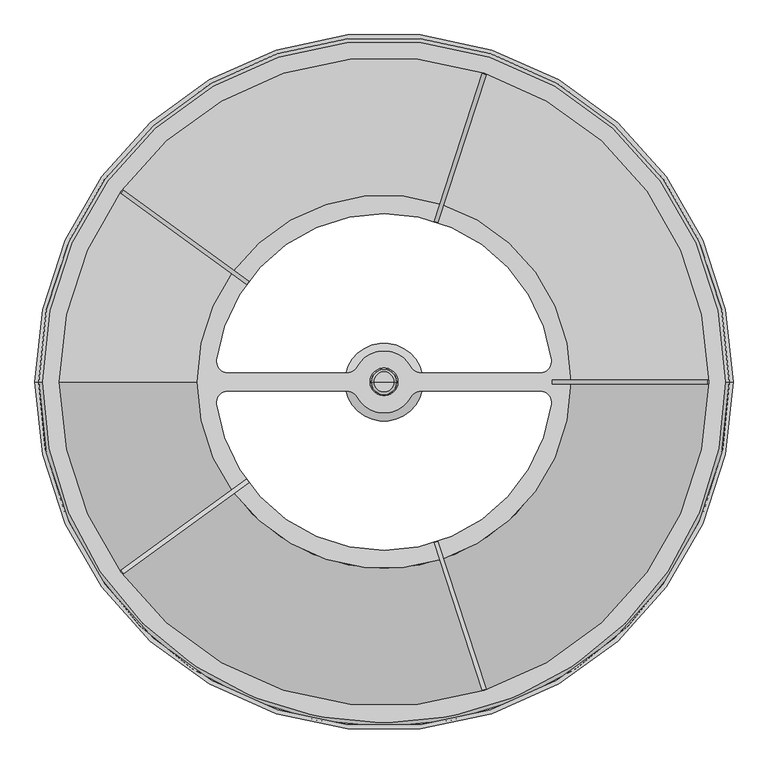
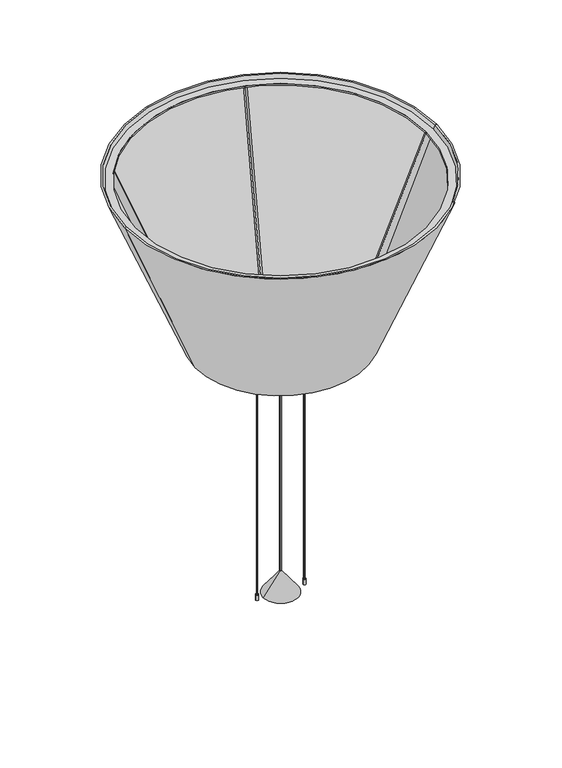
"""IFC4 building model written with IfcOpenShell, lengths in millimetres: light fixture geometry, Haworth_BuzziShade_Light : HCBZ-SHP2 - Large."""

from ifc_helpers import new_model, si_unit, point, frame, frame_2d, origin, origin_with_axes, origin_2d, place, context, project, spatial, polyline, circle_curve, ellipse_curve, trimmed, segment, composite_curve, outline, extrude, source, transform, mapped, element, save
from ifc_brep_helpers import plane_surface, cylinder_surface, revolved_surface, advanced_brep


def light_fixture_a9611ea3(model_context):
    return source(origin(), model_context, "Body", "SolidModel", [
        advanced_brep(
        [(-11.0616704, 0.0, 969.3533765), (11.0616704, 0.0, 969.3533765), (7.7346314, 0.0, 967.3999626), (-7.7346314, 0.0, 967.3999626), (-21.5426766, 0.0, 988.1355465), (21.5426766, 0.0, 988.1355465), (-22.3301074, 0.0, 991.7010236), (22.3301074, 0.0, 991.7010236), (-20.234002, 0.0, 1019.872733), (20.234002, 0.0, 1019.872733), (-16.4345046, 0.0, 1023.4000328), (16.4345046, 0.0, 1023.4000328), (0.0, 0.0, 1023.4000328), (0.0, 0.0, 967.3999626)],
        [
            (0, 1, circle_curve(frame((0.0, 0.0, 969.3533765), z_axis=(0.0, 0.0, -1.0), x_axis=(1.0, 0.0, 0.0)), 11.0616704)),
            (1, 2, circle_curve(frame((7.7346314, 0.0, 971.2099626), z_axis=(0.0, 1.0, 0.0), x_axis=(1.0, 0.0, 0.0)), 3.81)),
            (2, 3, circle_curve(frame((0.0, 0.0, 967.3999626), z_axis=(0.0, 0.0, 1.0), x_axis=(1.0, 0.0, 0.0)), 7.7346314)),
            (3, 0, circle_curve(frame((-7.7346314, 0.0, 971.2099626), z_axis=(0.0, 1.0, 0.0), x_axis=(-1.0, 0.0, 0.0)), 3.81)),
            (1, 0, circle_curve(frame((0.0, 0.0, 969.3533765), z_axis=(0.0, 0.0, -1.0), x_axis=(1.0, 0.0, 0.0)), 11.0616704)),
            (3, 2, circle_curve(frame((0.0, 0.0, 967.3999626), z_axis=(0.0, 0.0, 1.0), x_axis=(1.0, 0.0, 0.0)), 7.7346314)),
            (4, 5, circle_curve(frame((0.0, 0.0, 988.1355465), z_axis=(0.0, 0.0, -1.0), x_axis=(1.0, 0.0, 0.0)), 21.5426766)),
            (5, 1),
            (0, 4),
            (5, 4, circle_curve(frame((0.0, 0.0, 988.1355465), z_axis=(0.0, 0.0, -1.0), x_axis=(1.0, 0.0, 0.0)), 21.5426766)),
            (6, 7, circle_curve(frame((0.0, 0.0, 991.7010236), z_axis=(0.0, 0.0, -1.0), x_axis=(1.0, 0.0, 0.0)), 22.3301074)),
            (7, 5, circle_curve(frame((15.9976117, 0.0, 991.2298567), z_axis=(0.0, 1.0, 0.0), x_axis=(1.0, 0.0, 0.0)), 6.35)),
            (4, 6, circle_curve(frame((-15.9976117, 0.0, 991.2298567), z_axis=(0.0, 1.0, 0.0), x_axis=(-1.0, 0.0, 0.0)), 6.35)),
            (7, 6, circle_curve(frame((0.0, 0.0, 991.7010236), z_axis=(0.0, 0.0, -1.0), x_axis=(1.0, 0.0, 0.0)), 22.3301074)),
            (8, 9, circle_curve(frame((0.0, 0.0, 1019.872733), z_axis=(0.0, 0.0, -1.0), x_axis=(1.0, 0.0, 0.0)), 20.234002)),
            (9, 7),
            (6, 8),
            (9, 8, circle_curve(frame((0.0, 0.0, 1019.872733), z_axis=(0.0, 0.0, -1.0), x_axis=(1.0, 0.0, 0.0)), 20.234002)),
            (10, 11, circle_curve(frame((0.0, 0.0, 1023.4000328), z_axis=(0.0, 0.0, -1.0), x_axis=(1.0, 0.0, 0.0)), 16.4345046)),
            (11, 9, circle_curve(frame((16.4345046, 0.0, 1019.5900328), z_axis=(0.0, 1.0, 0.0), x_axis=(1.0, 0.0, 0.0)), 3.81)),
            (8, 10, circle_curve(frame((-16.4345046, 0.0, 1019.5900328), z_axis=(0.0, 1.0, 0.0), x_axis=(-1.0, 0.0, 0.0)), 3.81)),
            (11, 10, circle_curve(frame((0.0, 0.0, 1023.4000328), z_axis=(0.0, 0.0, -1.0), x_axis=(1.0, 0.0, 0.0)), 16.4345046)),
            (12, 11),
            (10, 12),
            (2, 13),
            (13, 3),
        ],
        [
            revolved_surface(trimmed(ellipse_curve(frame((7.7346314, 0.0, 971.2099626), z_axis=(0.0, -1.0, 0.0), x_axis=(1.0, 0.0, 0.0)), 3.81, 3.81), [point((7.7346314, 0.0, 967.3999626))], [point((11.0616704, 0.0, 969.3533765))], True, "CARTESIAN"), (0.0, 0.0, 1046.7472855), (0.0, 0.0, 1.0)),
            revolved_surface(polyline([(11.0616704, 0.0, 969.3533765), (21.5426766, 0.0, 988.1355465)]), (0.0, 0.0, 1046.7472855), (0.0, 0.0, 1.0)),
            revolved_surface(trimmed(ellipse_curve(frame((15.9976117, 0.0, 991.2298567), z_axis=(0.0, -1.0, 0.0), x_axis=(1.0, 0.0, 0.0)), 6.35, 6.35), [point((21.5426766, 0.0, 988.1355465))], [point((22.3301074, 0.0, 991.7010236))], True, "CARTESIAN"), (0.0, 0.0, 1046.7472855), (0.0, 0.0, 1.0)),
            revolved_surface(polyline([(22.3301074, 0.0, 991.7010236), (20.234002, 0.0, 1019.872733)]), (0.0, 0.0, 1046.7472855), (0.0, 0.0, 1.0)),
            revolved_surface(trimmed(ellipse_curve(frame((16.4345046, 0.0, 1019.5900328), z_axis=(0.0, -1.0, 0.0), x_axis=(1.0, 0.0, 0.0)), 3.81, 3.81), [point((20.234002, 0.0, 1019.872733))], [point((16.4345046, 0.0, 1023.4000328))], True, "CARTESIAN"), (0.0, 0.0, 1046.7472855), (0.0, 0.0, 1.0)),
            plane_surface(frame((0.0, 0.0, 1023.4000328), z_axis=(0.0, 0.0, 1.0), x_axis=(1.0, 0.0, 0.0))),
            plane_surface(frame((0.0, 0.0, 967.3999626), z_axis=(0.0, 0.0, -1.0), x_axis=(1.0, 0.0, 0.0))),
        ],
        [
            (0, [[1, 2, 3, 4]]),
            (0, [[5, -4, 6, -2]]),
            (1, [[7, 8, -1, 9]]),
            (1, [[10, -9, -5, -8]]),
            (2, [[11, 12, -7, 13]]),
            (2, [[14, -13, -10, -12]]),
            (3, [[15, 16, -11, 17]]),
            (3, [[18, -17, -14, -16]]),
            (4, [[19, 20, -15, 21]]),
            (4, [[22, -21, -18, -20]]),
            (5, [[23, -19, 24]]),
            (5, [[-24, -22, -23]]),
            (6, [[-3, 25, 26]]),
            (6, [[-6, -26, -25]]),
        ],
    ),
        extrude(outline(polyline([(0.0, 0.0), (636.8410752, -1e-07), (627.336769, -22.8489395), (-11.5105772, -27.672139), (0.0, 0.0)])), frame((89.5733079, -286.1223283, 967.3999626), z_axis=(0.9510565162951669, 0.3090169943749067, 0.0), x_axis=(0.11868152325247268, -0.3652641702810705, 0.9233075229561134)), (0.0, 0.0, 1.0), 6.5293838),
        extrude(outline(polyline([(0.0, 0.0), (11.5105773, -27.672139), (-627.336769, -22.8489394), (-636.8410752, -1e-07), (0.0, 0.0)])), frame((-240.6009549, -178.8883225, 967.3999626), z_axis=(-0.5877852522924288, 0.8090169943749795, 0.0), x_axis=(0.31071226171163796, 0.22574567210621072, -0.9233075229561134)), (0.0, 0.0, 1.0), 6.5293838),
        extrude(outline(polyline([(0.0, 0.0), (11.5105772, -27.6721389), (-627.336769, -22.8489394), (-636.8410752, 0.0), (0.0, 0.0)])), frame((-244.4826887, 173.5455742, 967.3999626), z_axis=(0.5877852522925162, 0.8090169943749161, 0.0), x_axis=(0.3107122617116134, -0.22574567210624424, -0.9233075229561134)), (0.0, 0.0, 1.0), 6.5293838),
        extrude(outline(polyline([(0.0, 0.0), (636.8410752, 0.0), (627.336769, -22.8489395), (-11.5105772, -27.672139), (0.0, 0.0)])), frame((95.7121566, 284.1276954, 967.3999626), z_axis=(-0.9510565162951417, 0.3090169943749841, 0.0), x_axis=(0.11868152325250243, 0.36526417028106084, 0.9233075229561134)), (0.0, 0.0, 1.0), 6.5293838),
        extrude(outline(polyline([(967.3999626, 299.7981791), (1555.4001183, 544.384303), (1555.4001183, 519.6374675), (967.3999626, 269.8275158), (967.3999626, 299.7981791)])), frame((0.0, -3.2273838, 0.0), z_axis=(0.0, 1.0, 0.0), x_axis=(0.0, 0.0, 1.0)), (0.0, 0.0, 1.0), 6.5293838),
        extrude(outline(composite_curve([segment(trimmed(circle_curve(origin_2d(), 299.593), [point((-299.593, 0.0))], [point((299.593, 0.0))], False, "CARTESIAN"), True, "CONTINUOUS"), segment(trimmed(circle_curve(origin_2d(), 299.593), [point((299.593, 0.0))], [point((-299.593, 0.0))], False, "CARTESIAN"), True, "CONTINUOUS")], self_intersect=False), holes=[composite_curve([segment(trimmed(circle_curve(frame_2d((250.4670582, -32.7799998)), 17.78), [point((268.0967154, -35.0872898))], [point((250.4670582, -14.9999998))], True, "CARTESIAN"), True, "CONTINUOUS"), segment(polyline([(250.4670582, -14.9999998), (59.3262175, -14.9999998)]), True, "CONTINUOUS"), segment(trimmed(circle_curve(frame_2d((59.3262175, -32.7799998)), 17.78), [point((59.3262175, -14.9999998))], [point((43.7638077, -24.1811743))], True, "CARTESIAN"), True, "CONTINUOUS"), segment(trimmed(circle_curve(origin_2d(), 50.0000005), [point((43.7638077, -24.1811743))], [point((-43.7638077, -24.1811743))], False, "CARTESIAN"), True, "CONTINUOUS"), segment(trimmed(circle_curve(frame_2d((-59.3262175, -32.7799998)), 17.78), [point((-43.7638077, -24.1811743))], [point((-59.3262175, -14.9999998))], True, "CARTESIAN"), True, "CONTINUOUS"), segment(polyline([(-59.3262175, -14.9999998), (-250.4670582, -14.9999998)]), True, "CONTINUOUS"), segment(trimmed(circle_curve(frame_2d((-250.4670582, -32.7799998)), 17.78), [point((-250.4670582, -14.9999998))], [point((-268.0967154, -35.0872898))], True, "CARTESIAN"), True, "CONTINUOUS"), segment(trimmed(circle_curve(origin_2d(), 270.383), [point((-268.0967154, -35.0872898))], [point((268.0967154, -35.0872898))], True, "CARTESIAN"), True, "CONTINUOUS")], self_intersect=False), composite_curve([segment(trimmed(circle_curve(frame_2d((-59.3262175, 32.7799998)), 17.78), [point((-59.3262175, 14.9999998))], [point((-43.7638077, 24.1811743))], True, "CARTESIAN"), True, "CONTINUOUS"), segment(trimmed(circle_curve(origin_2d(), 50.0000005), [point((-43.7638077, 24.1811743))], [point((43.7638077, 24.1811743))], False, "CARTESIAN"), True, "CONTINUOUS"), segment(trimmed(circle_curve(frame_2d((59.3262175, 32.7799998)), 17.78), [point((43.7638077, 24.1811743))], [point((59.3262175, 14.9999998))], True, "CARTESIAN"), True, "CONTINUOUS"), segment(polyline([(59.3262175, 14.9999998), (250.4670582, 14.9999998)]), True, "CONTINUOUS"), segment(trimmed(circle_curve(frame_2d((250.4670582, 32.7799998)), 17.78), [point((250.4670582, 14.9999998))], [point((268.0967154, 35.0872898))], True, "CARTESIAN"), True, "CONTINUOUS"), segment(trimmed(circle_curve(origin_2d(), 270.383), [point((268.0967154, 35.0872898))], [point((-268.095841, 35.0939703))], True, "CARTESIAN"), True, "CONTINUOUS"), segment(trimmed(circle_curve(frame_2d((-250.4607639, 32.7855239)), 17.7855241), [point((-268.095841, 35.0939703))], [point((-250.4607639, 14.9999998))], True, "CARTESIAN"), True, "CONTINUOUS"), segment(polyline([(-250.4607639, 14.9999998), (-59.3262175, 14.9999998)]), True, "CONTINUOUS")], self_intersect=False)]), frame((0.0, 0.0, 961.4000381), z_axis=(0.0, 0.0, 1.0), x_axis=(1.0, 0.0, 0.0)), (0.0, 0.0, 1.0), 5.9999245),
        extrude(outline(composite_curve([segment(trimmed(circle_curve(origin_2d(), 549.783), [point((-549.783, 0.0))], [point((549.783, 0.0))], False, "CARTESIAN"), True, "CONTINUOUS"), segment(trimmed(circle_curve(origin_2d(), 549.783), [point((549.783, 0.0))], [point((-549.783, 0.0))], False, "CARTESIAN"), True, "CONTINUOUS")], self_intersect=False), holes=[composite_curve([segment(trimmed(circle_curve(origin_2d(), 520.573), [point((-520.573, 0.0))], [point((520.573, 0.0))], True, "CARTESIAN"), True, "CONTINUOUS"), segment(trimmed(circle_curve(origin_2d(), 520.573), [point((520.573, 0.0))], [point((-520.573, 0.0))], True, "CARTESIAN"), True, "CONTINUOUS")], self_intersect=False)]), frame((0.0, 0.0, 1555.4001183), z_axis=(0.0, 0.0, 1.0), x_axis=(1.0, 0.0, 0.0)), (0.0, 0.0, 1.0), 5.9999245),
        advanced_brep(
        [(559.943, 0.0, 1575.9815209), (-559.943, 0.0, 1575.9815209), (-553.593, 0.0, 1575.9815209), (553.593, 0.0, 1575.9815209), (305.943, 0.0, 956.009678), (-305.943, 0.0, 956.009678), (299.593, 0.0, 956.009678), (-299.593, 0.0, 956.009678)],
        [
            (0, 1, circle_curve(frame((0.0, 0.0, 1575.9815209), z_axis=(0.0, 0.0, 1.0), x_axis=(-1.0, 0.0, 0.0)), 559.943)),
            (1, 2),
            (2, 3, circle_curve(frame((0.0, 0.0, 1575.9815209), z_axis=(0.0, 0.0, -1.0), x_axis=(-1.0, 0.0, 0.0)), 553.593)),
            (3, 0),
            (1, 0, circle_curve(frame((0.0, 0.0, 1575.9815209), z_axis=(0.0, 0.0, 1.0), x_axis=(-1.0, 0.0, 0.0)), 559.943)),
            (3, 2, circle_curve(frame((0.0, 0.0, 1575.9815209), z_axis=(0.0, 0.0, -1.0), x_axis=(-1.0, 0.0, 0.0)), 553.593)),
            (4, 5, circle_curve(frame((0.0, 0.0, 956.009678), z_axis=(0.0, 0.0, 1.0), x_axis=(-1.0, 0.0, 0.0)), 305.943)),
            (5, 1),
            (0, 4),
            (5, 4, circle_curve(frame((0.0, 0.0, 956.009678), z_axis=(0.0, 0.0, 1.0), x_axis=(-1.0, 0.0, 0.0)), 305.943)),
            (6, 7, circle_curve(frame((0.0, 0.0, 956.009678), z_axis=(0.0, 0.0, 1.0), x_axis=(-1.0, 0.0, 0.0)), 299.593)),
            (7, 5),
            (4, 6),
            (7, 6, circle_curve(frame((0.0, 0.0, 956.009678), z_axis=(0.0, 0.0, 1.0), x_axis=(-1.0, 0.0, 0.0)), 299.593)),
            (2, 7),
            (6, 3),
        ],
        [
            plane_surface(frame((0.0, 0.0, 1575.9815209), z_axis=(0.0, 0.0, 1.0), x_axis=(-1.0, 0.0, 0.0))),
            revolved_surface(polyline([(-559.943, 0.0, 1575.9815209), (-305.943, 0.0, 956.009678)]), (0.0, 0.0, 1677.5815209), (0.0, 0.0, -1.0)),
            plane_surface(frame((0.0, 0.0, 956.009678), z_axis=(0.0, 0.0, -1.0), x_axis=(-1.0, 0.0, 0.0))),
            revolved_surface(polyline([(-299.593, 0.0, 956.009678), (-553.593, 0.0, 1575.9815209)]), (0.0, 0.0, 1677.5815209), (0.0, 0.0, -1.0)),
        ],
        [
            (0, [[1, 2, 3, 4]]),
            (0, [[5, -4, 6, -2]]),
            (1, [[7, 8, -1, 9]]),
            (1, [[10, -9, -5, -8]]),
            (2, [[11, 12, -7, 13]]),
            (2, [[14, -13, -10, -12]]),
            (3, [[-3, 15, -11, 16]]),
            (3, [[-6, -16, -14, -15]]),
        ],
    ),
        extrude(outline(composite_curve([segment(trimmed(circle_curve(frame_2d((85.09, 0.0)), 1.905), [point((86.995, 0.0))], [point((83.185, 0.0))], False, "CARTESIAN"), True, "CONTINUOUS"), segment(trimmed(circle_curve(frame_2d((85.09, 0.0)), 1.905), [point((83.185, 0.0))], [point((86.995, 0.0))], False, "CARTESIAN"), True, "CONTINUOUS")], self_intersect=False)), frame((0.0, 0.0, 19.999942), z_axis=(0.0, 0.0, 1.0), x_axis=(1.0, 0.0, 0.0)), (0.0, 0.0, 1.0), 914.4),
        extrude(outline(composite_curve([segment(trimmed(circle_curve(frame_2d((-85.09, 0.0)), 1.905), [point((-86.995, 0.0))], [point((-83.185, 0.0))], False, "CARTESIAN"), True, "CONTINUOUS"), segment(trimmed(circle_curve(frame_2d((-85.09, 0.0)), 1.905), [point((-83.185, 0.0))], [point((-86.995, 0.0))], False, "CARTESIAN"), True, "CONTINUOUS")], self_intersect=False)), frame((0.0, 0.0, 19.999942), z_axis=(0.0, 0.0, 1.0), x_axis=(1.0, 0.0, 0.0)), (0.0, 0.0, 1.0), 914.4),
        advanced_brep(
        [(4.9999946, 0.0, 934.399942), (-4.9999946, 0.0, 934.399942), (-4.9999946, 0.0, 954.399884), (4.9999946, 0.0, 954.399884), (-9.9999983, 0.0, 954.399884), (9.9999983, 0.0, 954.399884), (-9.9999983, 0.0, 961.4000381), (9.9999983, 0.0, 961.4000381), (0.0, 0.0, 961.4000381), (0.0, 0.0, 934.399942)],
        [
            (0, 1, circle_curve(frame((0.0, 0.0, 934.399942), z_axis=(0.0, 0.0, 1.0), x_axis=(-1.0, 0.0, 0.0)), 4.9999946)),
            (1, 2),
            (2, 3, circle_curve(frame((0.0, 0.0, 954.399884), z_axis=(0.0, 0.0, -1.0), x_axis=(-1.0, 0.0, 0.0)), 4.9999946)),
            (3, 0),
            (1, 0, circle_curve(frame((0.0, 0.0, 934.399942), z_axis=(0.0, 0.0, 1.0), x_axis=(-1.0, 0.0, 0.0)), 4.9999946)),
            (3, 2, circle_curve(frame((0.0, 0.0, 954.399884), z_axis=(0.0, 0.0, -1.0), x_axis=(-1.0, 0.0, 0.0)), 4.9999946)),
            (2, 4),
            (4, 5, circle_curve(frame((0.0, 0.0, 954.399884), z_axis=(0.0, 0.0, -1.0), x_axis=(-1.0, 0.0, 0.0)), 9.9999983)),
            (5, 3),
            (5, 4, circle_curve(frame((0.0, 0.0, 954.399884), z_axis=(0.0, 0.0, -1.0), x_axis=(-1.0, 0.0, 0.0)), 9.9999983)),
            (4, 6),
            (6, 7, circle_curve(frame((0.0, 0.0, 961.4000381), z_axis=(0.0, 0.0, -1.0), x_axis=(-1.0, 0.0, 0.0)), 9.9999983)),
            (7, 5),
            (7, 6, circle_curve(frame((0.0, 0.0, 961.4000381), z_axis=(0.0, 0.0, -1.0), x_axis=(-1.0, 0.0, 0.0)), 9.9999983)),
            (6, 8),
            (8, 7),
            (9, 1),
            (0, 9),
        ],
        [
            cylinder_surface(frame((0.0, 0.0, 961.4000381), z_axis=(0.0, 0.0, -1.0), x_axis=(-1.0, 0.0, 0.0)), 4.9999946),
            plane_surface(frame((0.0, 0.0, 954.399884), z_axis=(0.0, 0.0, -1.0), x_axis=(-1.0, 0.0, 0.0))),
            cylinder_surface(frame((0.0, 0.0, 961.4000381), z_axis=(0.0, 0.0, -1.0), x_axis=(-1.0, 0.0, 0.0)), 9.9999983),
            plane_surface(frame((0.0, 0.0, 961.4000381), z_axis=(0.0, 0.0, 1.0), x_axis=(-1.0, 0.0, 0.0))),
            plane_surface(frame((0.0, 0.0, 934.399942), z_axis=(0.0, 0.0, -1.0), x_axis=(-1.0, 0.0, 0.0))),
        ],
        [
            (0, [[1, 2, 3, 4]]),
            (0, [[5, -4, 6, -2]]),
            (1, [[-3, 7, 8, 9]]),
            (1, [[-6, -9, 10, -7]]),
            (2, [[-8, 11, 12, 13]]),
            (2, [[-10, -13, 14, -11]]),
            (3, [[-12, 15, 16]]),
            (3, [[-14, -16, -15]]),
            (4, [[17, -1, 18]]),
            (4, [[-18, -5, -17]]),
        ],
    ),
        advanced_brep(
        [(90.0542052, 0.0, 934.399942), (80.0542161, 0.0, 934.399942), (80.0542161, 0.0, 954.399884), (90.0542052, 0.0, 954.399884), (75.0542124, 0.0, 954.399884), (95.0542089, 0.0, 954.399884), (75.0542124, 0.0, 961.4000381), (95.0542089, 0.0, 961.4000381), (85.0542106, 0.0, 961.4000381), (85.0542106, 0.0, 934.399942)],
        [
            (0, 1, circle_curve(frame((85.0542106, 0.0, 934.399942), z_axis=(0.0, 0.0, 1.0), x_axis=(-1.0, 0.0, 0.0)), 4.9999946)),
            (1, 2),
            (2, 3, circle_curve(frame((85.0542106, 0.0, 954.399884), z_axis=(0.0, 0.0, -1.0), x_axis=(-1.0, 0.0, 0.0)), 4.9999946)),
            (3, 0),
            (1, 0, circle_curve(frame((85.0542106, 0.0, 934.399942), z_axis=(0.0, 0.0, 1.0), x_axis=(-1.0, 0.0, 0.0)), 4.9999946)),
            (3, 2, circle_curve(frame((85.0542106, 0.0, 954.399884), z_axis=(0.0, 0.0, -1.0), x_axis=(-1.0, 0.0, 0.0)), 4.9999946)),
            (2, 4),
            (4, 5, circle_curve(frame((85.0542106, 0.0, 954.399884), z_axis=(0.0, 0.0, -1.0), x_axis=(-1.0, 0.0, 0.0)), 9.9999983)),
            (5, 3),
            (5, 4, circle_curve(frame((85.0542106, 0.0, 954.399884), z_axis=(0.0, 0.0, -1.0), x_axis=(-1.0, 0.0, 0.0)), 9.9999983)),
            (4, 6),
            (6, 7, circle_curve(frame((85.0542106, 0.0, 961.4000381), z_axis=(0.0, 0.0, -1.0), x_axis=(-1.0, 0.0, 0.0)), 9.9999983)),
            (7, 5),
            (7, 6, circle_curve(frame((85.0542106, 0.0, 961.4000381), z_axis=(0.0, 0.0, -1.0), x_axis=(-1.0, 0.0, 0.0)), 9.9999983)),
            (6, 8),
            (8, 7),
            (9, 1),
            (0, 9),
        ],
        [
            cylinder_surface(frame((85.0542106, 0.0, 961.4000381), z_axis=(0.0, 0.0, -1.0), x_axis=(-1.0, 0.0, 0.0)), 4.9999946),
            plane_surface(frame((85.0542106, 0.0, 954.399884), z_axis=(0.0, 0.0, -1.0), x_axis=(-1.0, 0.0, 0.0))),
            cylinder_surface(frame((85.0542106, 0.0, 961.4000381), z_axis=(0.0, 0.0, -1.0), x_axis=(-1.0, 0.0, 0.0)), 9.9999983),
            plane_surface(frame((85.0542106, 0.0, 961.4000381), z_axis=(0.0, 0.0, 1.0), x_axis=(-1.0, 0.0, 0.0))),
            plane_surface(frame((85.0542106, 0.0, 934.399942), z_axis=(0.0, 0.0, -1.0), x_axis=(-1.0, 0.0, 0.0))),
        ],
        [
            (0, [[1, 2, 3, 4]]),
            (0, [[5, -4, 6, -2]]),
            (1, [[-3, 7, 8, 9]]),
            (1, [[-6, -9, 10, -7]]),
            (2, [[-8, 11, 12, 13]]),
            (2, [[-10, -13, 14, -11]]),
            (3, [[-12, 15, 16]]),
            (3, [[-14, -16, -15]]),
            (4, [[17, -1, 18]]),
            (4, [[-18, -5, -17]]),
        ],
    ),
        advanced_brep(
        [(-90.0542052, 0.0, 954.399884), (-80.0542161, 0.0, 954.399884), (-80.0542161, 0.0, 934.399942), (-90.0542052, 0.0, 934.399942), (-95.0542089, 0.0, 954.399884), (-75.0542124, 0.0, 954.399884), (-95.0542089, 0.0, 961.4000381), (-75.0542124, 0.0, 961.4000381), (-85.0542106, 0.0, 961.4000381), (-85.0542106, 0.0, 934.399942)],
        [
            (0, 1, circle_curve(frame((-85.0542106, 0.0, 954.399884), z_axis=(0.0, 0.0, -1.0), x_axis=(1.0, 0.0, 0.0)), 4.9999946)),
            (1, 2),
            (2, 3, circle_curve(frame((-85.0542106, 0.0, 934.399942), z_axis=(0.0, 0.0, 1.0), x_axis=(1.0, 0.0, 0.0)), 4.9999946)),
            (3, 0),
            (1, 0, circle_curve(frame((-85.0542106, 0.0, 954.399884), z_axis=(0.0, 0.0, -1.0), x_axis=(1.0, 0.0, 0.0)), 4.9999946)),
            (3, 2, circle_curve(frame((-85.0542106, 0.0, 934.399942), z_axis=(0.0, 0.0, 1.0), x_axis=(1.0, 0.0, 0.0)), 4.9999946)),
            (4, 5, circle_curve(frame((-85.0542106, 0.0, 954.399884), z_axis=(0.0, 0.0, -1.0), x_axis=(1.0, 0.0, 0.0)), 9.9999983)),
            (5, 1),
            (0, 4),
            (5, 4, circle_curve(frame((-85.0542106, 0.0, 954.399884), z_axis=(0.0, 0.0, -1.0), x_axis=(1.0, 0.0, 0.0)), 9.9999983)),
            (6, 7, circle_curve(frame((-85.0542106, 0.0, 961.4000381), z_axis=(0.0, 0.0, -1.0), x_axis=(1.0, 0.0, 0.0)), 9.9999983)),
            (7, 5),
            (4, 6),
            (7, 6, circle_curve(frame((-85.0542106, 0.0, 961.4000381), z_axis=(0.0, 0.0, -1.0), x_axis=(1.0, 0.0, 0.0)), 9.9999983)),
            (8, 7),
            (6, 8),
            (2, 9),
            (9, 3),
        ],
        [
            cylinder_surface(frame((-85.0542106, 0.0, 961.4000381), z_axis=(0.0, 0.0, 1.0), x_axis=(1.0, 0.0, 0.0)), 4.9999946),
            plane_surface(frame((-85.0542106, 0.0, 954.399884), z_axis=(0.0, 0.0, -1.0), x_axis=(1.0, 0.0, 0.0))),
            cylinder_surface(frame((-85.0542106, 0.0, 961.4000381), z_axis=(0.0, 0.0, 1.0), x_axis=(1.0, 0.0, 0.0)), 9.9999983),
            plane_surface(frame((-85.0542106, 0.0, 961.4000381), z_axis=(0.0, 0.0, 1.0), x_axis=(1.0, 0.0, 0.0))),
            plane_surface(frame((-85.0542106, 0.0, 934.399942), z_axis=(0.0, 0.0, -1.0), x_axis=(1.0, 0.0, 0.0))),
        ],
        [
            (0, [[1, 2, 3, 4]]),
            (0, [[5, -4, 6, -2]]),
            (1, [[7, 8, -1, 9]]),
            (1, [[10, -9, -5, -8]]),
            (2, [[11, 12, -7, 13]]),
            (2, [[14, -13, -10, -12]]),
            (3, [[15, -11, 16]]),
            (3, [[-16, -14, -15]]),
            (4, [[-3, 17, 18]]),
            (4, [[-6, -18, -17]]),
        ],
    ),
        advanced_brep(
        [(0.0, 0.0, 80.9200607), (3.0, 0.0, 80.9200607), (-3.0, 0.0, 80.9200607), (-62.5000005, 0.0, 0.0), (62.5000005, 0.0, 0.0), (0.0, 0.0, 0.0)],
        [
            (0, 1),
            (1, 2, circle_curve(frame((0.0, 0.0, 80.9200607), z_axis=(0.0, 0.0, 1.0), x_axis=(1.0, 0.0, 0.0)), 3.0)),
            (2, 0),
            (2, 1, circle_curve(frame((0.0, 0.0, 80.9200607), z_axis=(0.0, 0.0, 1.0), x_axis=(1.0, 0.0, 0.0)), 3.0)),
            (3, 4, circle_curve(frame((0.0, 0.0, 0.0), z_axis=(0.0, 0.0, -1.0), x_axis=(1.0, 0.0, 0.0)), 62.5000005)),
            (4, 5),
            (5, 3),
            (4, 3, circle_curve(frame((0.0, 0.0, 0.0), z_axis=(0.0, 0.0, -1.0), x_axis=(1.0, 0.0, 0.0)), 62.5000005)),
            (1, 4),
            (3, 2),
        ],
        [
            plane_surface(frame((0.0, 0.0, 80.9200607), z_axis=(0.0, 0.0, 1.0), x_axis=(1.0, 0.0, 0.0))),
            plane_surface(frame((0.0, 0.0, 0.0), z_axis=(0.0, 0.0, -1.0), x_axis=(1.0, 0.0, 0.0))),
            revolved_surface(polyline([(62.5000005, 0.0, 0.0), (3.0, 0.0, 80.9200607)]), (0.0, 0.0, 138.0700607), (0.0, 0.0, 1.0)),
        ],
        [
            (0, [[1, 2, 3]]),
            (0, [[-3, 4, -1]]),
            (1, [[5, 6, 7]]),
            (1, [[8, -7, -6]]),
            (2, [[-2, 9, -5, 10]]),
            (2, [[-4, -10, -8, -9]]),
        ],
    ),
        extrude(outline(composite_curve([segment(trimmed(circle_curve(frame_2d((85.09, 0.0)), 4.953), [point((80.137, 0.0))], [point((90.043, 0.0))], False, "CARTESIAN"), True, "CONTINUOUS"), segment(trimmed(circle_curve(frame_2d((85.09, 0.0)), 4.953), [point((90.043, 0.0))], [point((80.137, 0.0))], False, "CARTESIAN"), True, "CONTINUOUS")], self_intersect=False)), origin_with_axes(), (0.0, 0.0, 1.0), 19.999942),
        extrude(outline(composite_curve([segment(trimmed(circle_curve(frame_2d((-85.09, 0.0)), 4.9642139), [point((-90.0542139, 0.0))], [point((-80.1257861, 0.0))], False, "CARTESIAN"), True, "CONTINUOUS"), segment(trimmed(circle_curve(frame_2d((-85.09, 0.0)), 4.9642139), [point((-80.1257861, 0.0))], [point((-90.0542139, 0.0))], False, "CARTESIAN"), True, "CONTINUOUS")], self_intersect=False)), origin_with_axes(), (0.0, 0.0, 1.0), 19.999942),
        extrude(outline(composite_curve([segment(trimmed(circle_curve(origin_2d(), 3.0), [point((-3.0, 0.0))], [point((3.0, 0.0))], False, "CARTESIAN"), True, "CONTINUOUS"), segment(trimmed(circle_curve(origin_2d(), 3.0), [point((3.0, 0.0))], [point((-3.0, 0.0))], False, "CARTESIAN"), True, "CONTINUOUS")], self_intersect=False)), frame((0.0, 0.0, 80.9200607), z_axis=(0.0, 0.0, 1.0), x_axis=(1.0, 0.0, 0.0)), (0.0, 0.0, 1.0), 853.4798813),
    ])


if __name__ == "__main__":
    model = new_model("IFC4")
    model_context = context("Model", 3, world=origin())
    ifc_project = project(units=[si_unit("LENGTHUNIT", "METRE", prefix="MILLI")], contexts=[model_context])
    site = spatial("IfcSite", under=ifc_project)
    building = spatial("IfcBuilding", under=site)
    placement = place(None, origin())
    light_fixture_shape = light_fixture_a9611ea3(model_context)
    element("IfcLightFixture", 1, ObjectType="Haworth_BuzziShade_Light : HCBZ-SHP2 - Large", at=placement, inside=building, context=model_context, shape_type="MappedRepresentation", body=[
        mapped(light_fixture_shape, transform((0.0, 0.0, 0.0), x_axis=(1.0, 0.0, 0.0), y_axis=(0.0, 1.0, 0.0), z_axis=(0.0, 0.0, 1.0))),
    ])
    save(model, "model.ifc")
